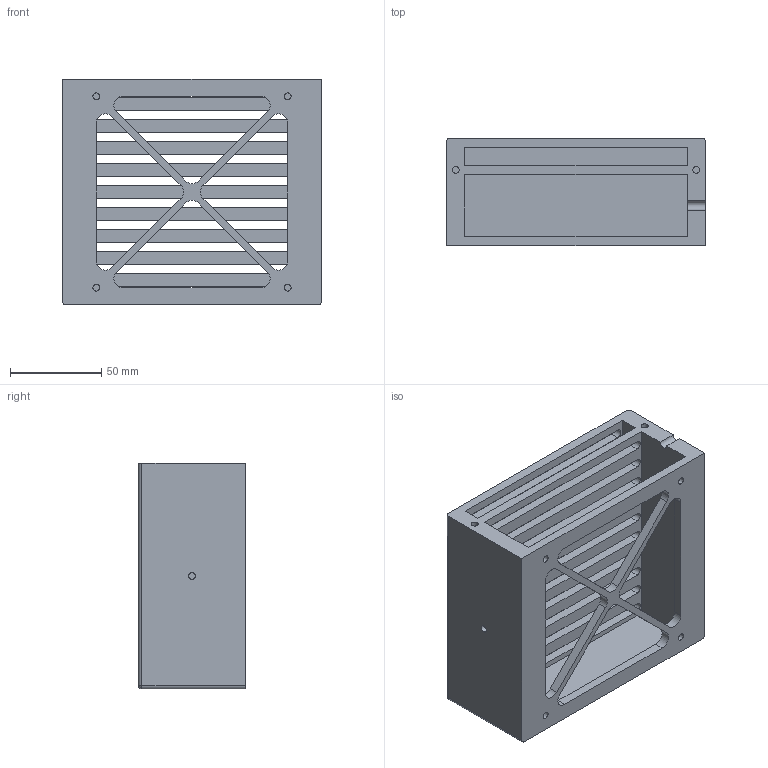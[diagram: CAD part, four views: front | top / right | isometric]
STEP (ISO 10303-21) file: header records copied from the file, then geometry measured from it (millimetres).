
FILE_DESCRIPTION(('FreeCAD Model'),'2;1');
FILE_NAME( '2021-01-24T16:39:20',('Author'),(''), 'Open CASCADE STEP processor 7.3','FreeCAD','Unknown');
FILE_SCHEMA(('AUTOMOTIVE_DESIGN { 1 0 10303 214 1 1 1 1 }'));
Length unit declared in the file: millimetre
Products named in the file (1): Gehauese
Bounding box: 142 x 59 x 124 mm (x, y, z)
Volume: 274825.3 mm3; surface area: 122583.4 mm2
Topology: 1 solids, 1 shells, 144 faces, 395 edges, 260 vertices
Faces by surface type: plane 76, cylinder 66, sphere 2
Full cylindrical faces by diameter (mm): 3.8 x8
Entity records: 9988 total; most frequent: CARTESIAN_POINT 1910, DIRECTION 1549, LINE 910, VECTOR 910, ORIENTED_EDGE 786, PCURVE 786, DEFINITIONAL_REPRESENTATION 786, EDGE_CURVE 393
